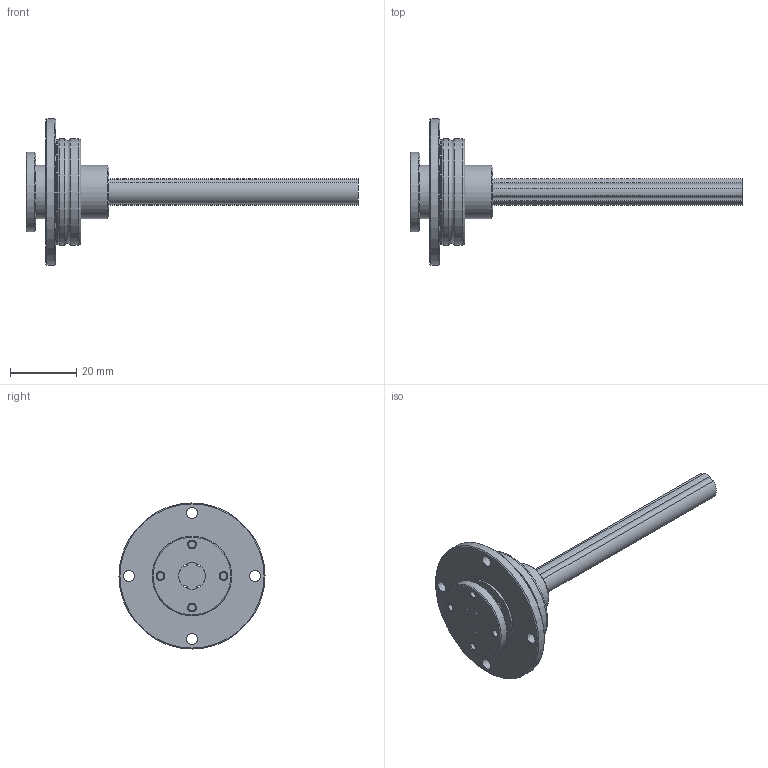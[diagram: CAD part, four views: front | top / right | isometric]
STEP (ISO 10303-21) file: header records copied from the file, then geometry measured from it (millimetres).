
FILE_DESCRIPTION(/* description */ ('STEP AP214'),/* implementation_level */ '2;1');
FILE_NAME(/* name */ 'LTR8A+100L(0_0)',/* time_stamp */ '2024-09-04T12:29:24+02:00',/* author */ ('License CC BY-ND 4.0'),/* organization */ ('CADENAS'),/* preprocessor_version */ 'ST-DEVELOPER v19.3',/* originating_system */ 'PARTsolutions',/* authorisation */ ' ');
FILE_SCHEMA (('AUTOMOTIVE_DESIGN {1 0 10303 214 3 1 1}'));
Length unit declared in the file: millimetre
Products named in the file (3): LTR8A+100L(0,0); LTR 8A100 LTRA Shaft; LTR 8A LTRA ACyl
Assembly tree (3 placements, depth 2):
  LTR8A+100L(0,0)
    LTR 8A100 LTRA Shaft
    LTR 8A LTRA ACyl  x2
Bounding box: 100 x 44 x 44 mm (x, y, z)
Volume: 29819.6 mm3; surface area: 15312.6 mm2
Topology: 3 solids, 3 shells, 110 faces, 234 edges, 148 vertices
Faces by surface type: cylinder 50, cone 30, plane 24, torus 6
Full cylindrical faces by diameter (mm): 1 x2, 2.113 x8, 3.4 x8, 8 x2, 16 x4, 21.333 x2, 24 x6, 28.8 x2, 31.6 x2, 32 x4, 44 x2
Entity records: 1510 total; most frequent: DIRECTION 282, CARTESIAN_POINT 230, ORIENTED_EDGE 164, AXIS2_PLACEMENT_3D 137, EDGE_LOOP 126, FACE_BOUND 126, EDGE_CURVE 82, VERTEX_POINT 74
